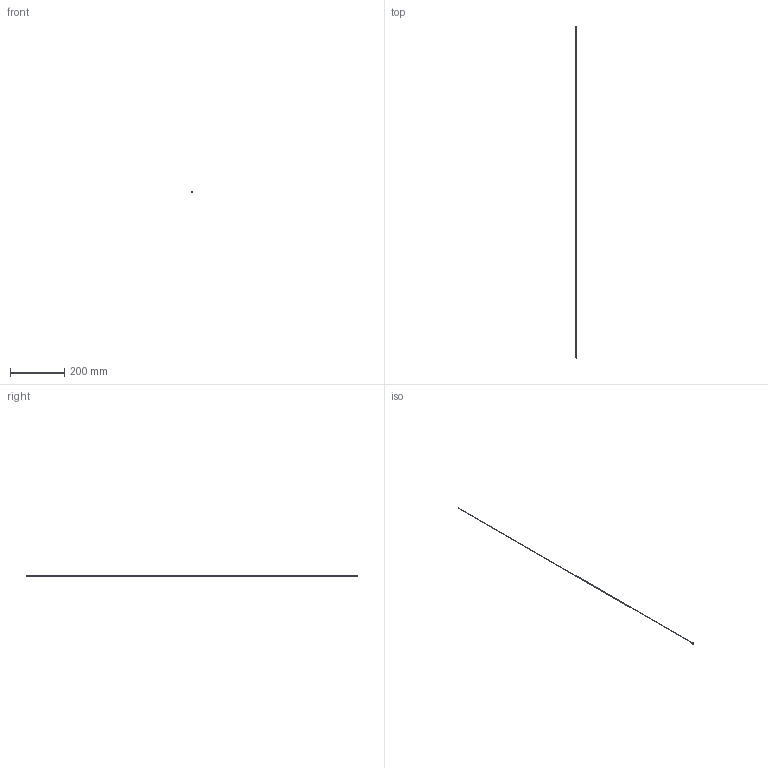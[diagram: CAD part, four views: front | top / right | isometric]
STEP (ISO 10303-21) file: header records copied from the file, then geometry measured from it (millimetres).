
FILE_DESCRIPTION(/* description */ (''),/* implementation_level */ '2;1');
FILE_NAME(/* name */ 'C:/Users/drich/Desktop/JHF072T-48 v1.step',/* time_stamp */ '2020-01-02T20:08:18-06:00',/* author */ (''),/* organization */ (''),/* preprocessor_version */ 'ST-DEVELOPER v18',/* originating_system */ 'Autodesk Translation Framework v8.12.0.6',/* authorisation */ '');
FILE_SCHEMA (('AUTOMOTIVE_DESIGN { 1 0 10303 214 3 1 1 }'));
Length unit declared in the file: inch
Products named in the file (1): JHF072T-48
Bounding box: 4.8 x 1219.2 x 4.8 mm (x, y, z)
Volume: 1054.8 mm3; surface area: 12915.6 mm2
Topology: 1 solids, 1 shells, 10 faces, 25 edges, 19 vertices
Faces by surface type: cylinder 4, plane 4, cone 1, torus 1
Full cylindrical faces by diameter (mm): 1.524 x1, 1.829 x1, 4.75 x1, 4.801 x1
Entity records: 364 total; most frequent: DIRECTION 67, CARTESIAN_POINT 55, ORIENTED_EDGE 50, AXIS2_PLACEMENT_3D 31, EDGE_CURVE 25, CIRCLE 20, VERTEX_POINT 19, EDGE_LOOP 14
